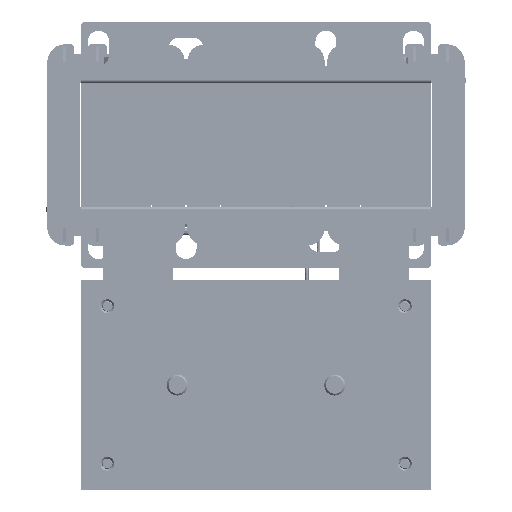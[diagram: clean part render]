
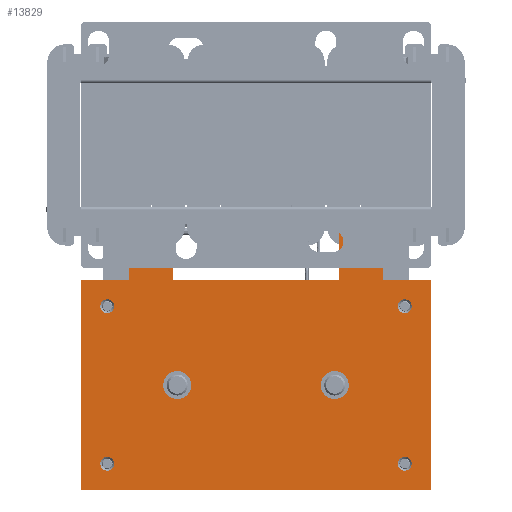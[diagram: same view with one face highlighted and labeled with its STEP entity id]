
A CAD part, front view. The second image highlights one B-rep face of the part: STEP entity #13829.
In plain terms, the highlighted planar face has unit normal (0, -1, 0) as drawn and (0, 0, 1) by its records, which use the part's own axes.
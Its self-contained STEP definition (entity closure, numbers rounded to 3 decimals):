
#13829=ADVANCED_FACE('',(#30791,#30793,#30795,#30797,#30799,#30801,#30803),#30805,
.T.);
#30791=FACE_BOUND('',#30792,.T.);
#30792=EDGE_LOOP('',(#50449,#50450,#50451,#50452,#50453,#50454,#50455,#50456,#50457,
#50458,#50459,#50460));
#30793=FACE_BOUND('',#30794,.T.);
#30794=EDGE_LOOP('',(#50461));
#30795=FACE_BOUND('',#30796,.T.);
#30796=EDGE_LOOP('',(#50462));
#30797=FACE_BOUND('',#30798,.T.);
#30798=EDGE_LOOP('',(#50463));
#30799=FACE_BOUND('',#30800,.T.);
#30800=EDGE_LOOP('',(#50464));
#30801=FACE_BOUND('',#30802,.T.);
#30802=EDGE_LOOP('',(#50465));
#30803=FACE_BOUND('',#30804,.T.);
#30804=EDGE_LOOP('',(#50466));
#30805=PLANE('',#30806);
#30806=AXIS2_PLACEMENT_3D('',#30807,#30808,#30809);
#30807=CARTESIAN_POINT('',(0.,0.,3.));
#30808=DIRECTION('',(0.,0.,1.));
#30809=DIRECTION('',(1.,0.,0.));
#50449=ORIENTED_EDGE('',*,*,#57747,.T.);
#50450=ORIENTED_EDGE('',*,*,#57751,.T.);
#50451=ORIENTED_EDGE('',*,*,#57753,.T.);
#50452=ORIENTED_EDGE('',*,*,#57738,.T.);
#50453=ORIENTED_EDGE('',*,*,#57757,.T.);
#50454=ORIENTED_EDGE('',*,*,#57758,.T.);
#50455=ORIENTED_EDGE('',*,*,#57759,.T.);
#50456=ORIENTED_EDGE('',*,*,#57744,.T.);
#50457=ORIENTED_EDGE('',*,*,#57760,.T.);
#50458=ORIENTED_EDGE('',*,*,#57761,.T.);
#50459=ORIENTED_EDGE('',*,*,#57762,.T.);
#50460=ORIENTED_EDGE('',*,*,#57754,.T.);
#50461=ORIENTED_EDGE('',*,*,#57729,.F.);
#50462=ORIENTED_EDGE('',*,*,#57730,.F.);
#50463=ORIENTED_EDGE('',*,*,#57731,.F.);
#50464=ORIENTED_EDGE('',*,*,#57732,.F.);
#50465=ORIENTED_EDGE('',*,*,#57733,.F.);
#50466=ORIENTED_EDGE('',*,*,#57735,.F.);
#57729=EDGE_CURVE('',#63566,#63566,#63567,.T.);
#57730=EDGE_CURVE('',#63568,#63568,#63569,.T.);
#57731=EDGE_CURVE('',#63570,#63570,#63571,.T.);
#57732=EDGE_CURVE('',#63572,#63572,#63573,.T.);
#57733=EDGE_CURVE('',#63574,#63574,#63575,.T.);
#57735=EDGE_CURVE('',#63578,#63578,#63579,.T.);
#57738=EDGE_CURVE('',#63585,#63582,#63586,.T.);
#57744=EDGE_CURVE('',#63590,#63595,#63597,.T.);
#57747=EDGE_CURVE('',#63603,#63601,#63604,.T.);
#57751=EDGE_CURVE('',#63601,#63608,#63610,.T.);
#57753=EDGE_CURVE('',#63608,#63585,#63612,.T.);
#57754=EDGE_CURVE('',#63613,#63603,#63614,.T.);
#57757=EDGE_CURVE('',#63582,#63618,#63619,.T.);
#57758=EDGE_CURVE('',#63618,#63620,#63621,.T.);
#57759=EDGE_CURVE('',#63620,#63590,#63622,.T.);
#57760=EDGE_CURVE('',#63595,#63623,#63624,.T.);
#57761=EDGE_CURVE('',#63623,#63625,#63626,.T.);
#57762=EDGE_CURVE('',#63625,#63613,#63627,.T.);
#63566=VERTEX_POINT('',#82667);
#63567=CIRCLE('',#82668,4.);
#63568=VERTEX_POINT('',#82672);
#63569=CIRCLE('',#82673,4.);
#63570=VERTEX_POINT('',#82677);
#63571=CIRCLE('',#82678,4.);
#63572=VERTEX_POINT('',#82682);
#63573=CIRCLE('',#82683,4.);
#63574=VERTEX_POINT('',#82687);
#63575=CIRCLE('',#82688,8.);
#63578=VERTEX_POINT('',#82697);
#63579=CIRCLE('',#82698,8.);
#63582=VERTEX_POINT('',#82707);
#63585=VERTEX_POINT('',#82712);
#63586=LINE('',#82713,#82714);
#63590=VERTEX_POINT('',#82723);
#63595=VERTEX_POINT('',#82732);
#63597=LINE('',#82736,#82737);
#63601=VERTEX_POINT('',#82744);
#63603=VERTEX_POINT('',#82748);
#63604=LINE('',#82749,#82750);
#63608=VERTEX_POINT('',#82759);
#63610=LINE('',#82763,#82764);
#63612=LINE('',#82769,#82770);
#63613=VERTEX_POINT('',#82772);
#63614=LINE('',#82773,#82774);
#63618=VERTEX_POINT('',#82783);
#63619=LINE('',#82784,#82785);
#63620=VERTEX_POINT('',#82787);
#63621=LINE('',#82788,#82789);
#63622=LINE('',#82791,#82792);
#63623=VERTEX_POINT('',#82794);
#63624=LINE('',#82795,#82796);
#63625=VERTEX_POINT('',#82798);
#63626=LINE('',#82799,#82800);
#63627=LINE('',#82802,#82803);
#82667=CARTESIAN_POINT('',(81.,-45.,3.));
#82668=AXIS2_PLACEMENT_3D('',#82669,#82670,#82671);
#82669=CARTESIAN_POINT('',(85.,-45.,3.));
#82670=DIRECTION('',(0.,0.,1.));
#82671=DIRECTION('',(1.,0.,0.));
#82672=CARTESIAN_POINT('',(81.,45.,3.));
#82673=AXIS2_PLACEMENT_3D('',#82674,#82675,#82676);
#82674=CARTESIAN_POINT('',(85.,45.,3.));
#82675=DIRECTION('',(0.,0.,1.));
#82676=DIRECTION('',(1.,0.,0.));
#82677=CARTESIAN_POINT('',(-89.,-45.,3.));
#82678=AXIS2_PLACEMENT_3D('',#82679,#82680,#82681);
#82679=CARTESIAN_POINT('',(-85.,-45.,3.));
#82680=DIRECTION('',(0.,0.,1.));
#82681=DIRECTION('',(1.,0.,0.));
#82682=CARTESIAN_POINT('',(-89.,45.,3.));
#82683=AXIS2_PLACEMENT_3D('',#82684,#82685,#82686);
#82684=CARTESIAN_POINT('',(-85.,45.,3.));
#82685=DIRECTION('',(0.,0.,1.));
#82686=DIRECTION('',(1.,0.,0.));
#82687=CARTESIAN_POINT('',(-37.,0.,3.));
#82688=AXIS2_PLACEMENT_3D('',#82689,#82690,#82691);
#82689=CARTESIAN_POINT('',(-45.,0.,3.));
#82690=DIRECTION('',(0.,0.,1.));
#82691=DIRECTION('',(-1.,0.,0.));
#82697=CARTESIAN_POINT('',(53.,0.,3.));
#82698=AXIS2_PLACEMENT_3D('',#82699,#82700,#82701);
#82699=CARTESIAN_POINT('',(45.,0.,3.));
#82700=DIRECTION('',(0.,0.,1.));
#82701=DIRECTION('',(-1.,0.,0.));
#82707=CARTESIAN_POINT('',(-72.5,-60.,3.));
#82712=CARTESIAN_POINT('',(-100.,-60.,3.));
#82713=CARTESIAN_POINT('',(-100.,-60.,3.));
#82714=VECTOR('',#82715,1.);
#82715=DIRECTION('',(1.,0.,0.));
#82723=CARTESIAN_POINT('',(-47.5,-60.,3.));
#82732=CARTESIAN_POINT('',(47.5,-60.,3.));
#82736=CARTESIAN_POINT('',(-47.5,-60.,3.));
#82737=VECTOR('',#82738,1.);
#82738=DIRECTION('',(1.,0.,0.));
#82744=CARTESIAN_POINT('',(100.,60.,3.));
#82748=CARTESIAN_POINT('',(100.,-60.,3.));
#82749=CARTESIAN_POINT('',(100.,-60.,3.));
#82750=VECTOR('',#82751,1.);
#82751=DIRECTION('',(0.,1.,0.));
#82759=CARTESIAN_POINT('',(-100.,60.,3.));
#82763=CARTESIAN_POINT('',(100.,60.,3.));
#82764=VECTOR('',#82765,1.);
#82765=DIRECTION('',(-1.,0.,0.));
#82769=CARTESIAN_POINT('',(-100.,60.,3.));
#82770=VECTOR('',#82771,1.);
#82771=DIRECTION('',(0.,-1.,0.));
#82772=CARTESIAN_POINT('',(72.5,-60.,3.));
#82773=CARTESIAN_POINT('',(72.5,-60.,3.));
#82774=VECTOR('',#82775,1.);
#82775=DIRECTION('',(1.,0.,0.));
#82783=CARTESIAN_POINT('',(-72.5,-100.,3.));
#82784=CARTESIAN_POINT('',(-72.5,-60.,3.));
#82785=VECTOR('',#82786,1.);
#82786=DIRECTION('',(0.,-1.,0.));
#82787=CARTESIAN_POINT('',(-47.5,-100.,3.));
#82788=CARTESIAN_POINT('',(-72.5,-100.,3.));
#82789=VECTOR('',#82790,1.);
#82790=DIRECTION('',(1.,0.,0.));
#82791=CARTESIAN_POINT('',(-47.5,-100.,3.));
#82792=VECTOR('',#82793,1.);
#82793=DIRECTION('',(0.,1.,0.));
#82794=CARTESIAN_POINT('',(47.5,-100.,3.));
#82795=CARTESIAN_POINT('',(47.5,-60.,3.));
#82796=VECTOR('',#82797,1.);
#82797=DIRECTION('',(0.,-1.,0.));
#82798=CARTESIAN_POINT('',(72.5,-100.,3.));
#82799=CARTESIAN_POINT('',(47.5,-100.,3.));
#82800=VECTOR('',#82801,1.);
#82801=DIRECTION('',(1.,0.,0.));
#82802=CARTESIAN_POINT('',(72.5,-100.,3.));
#82803=VECTOR('',#82804,1.);
#82804=DIRECTION('',(0.,1.,0.));
